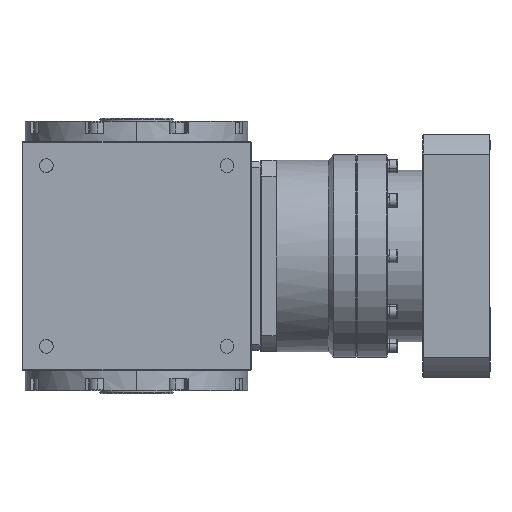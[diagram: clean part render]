
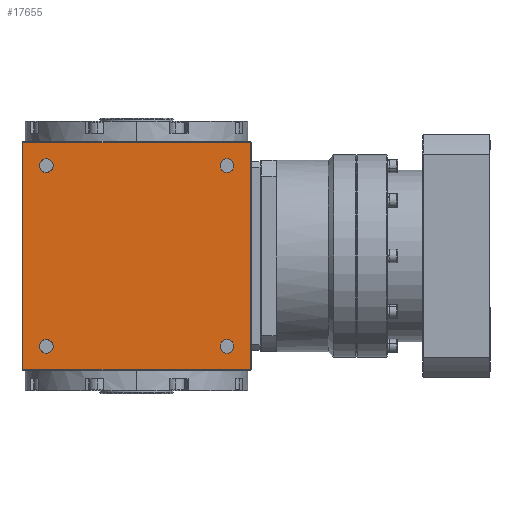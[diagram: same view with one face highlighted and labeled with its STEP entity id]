
A CAD part, left-side view. The second image highlights one B-rep face of the part: STEP entity #17655.
In plain terms, the highlighted planar face has unit normal (-1, 0, 0).
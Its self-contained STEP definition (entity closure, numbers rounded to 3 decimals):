
#273 = VECTOR ( 'NONE', #23337, 1000. ) ;
#275 = ORIENTED_EDGE ( 'NONE', *, *, #9602, .T. ) ;
#744 = CARTESIAN_POINT ( 'NONE',  ( -85., 84.5, 84.5 ) ) ;
#868 = CARTESIAN_POINT ( 'NONE',  ( -85., 85., 84.5 ) ) ;
#1003 = VERTEX_POINT ( 'NONE', #29728 ) ;
#1736 = CARTESIAN_POINT ( 'NONE',  ( -85., 85., -85. ) ) ;
#1900 = LINE ( 'NONE', #14093, #15139 ) ;
#2102 = CARTESIAN_POINT ( 'NONE',  ( -85., 67., 67. ) ) ;
#4072 = DIRECTION ( 'NONE',  ( 0., 0., 1. ) ) ;
#4186 = CARTESIAN_POINT ( 'NONE',  ( -85., -84.5, -84.5 ) ) ;
#4202 = DIRECTION ( 'NONE',  ( 1., 0., 0. ) ) ;
#4684 = FACE_BOUND ( 'NONE', #8637, .T. ) ;
#4778 = DIRECTION ( 'NONE',  ( 0., 1., 0. ) ) ;
#5446 = CIRCLE ( 'NONE', #31803, 5.1 ) ;
#5469 = CARTESIAN_POINT ( 'NONE',  ( -85., 67., 72.1 ) ) ;
#5640 = DIRECTION ( 'NONE',  ( 0., 0., 1. ) ) ;
#5864 = DIRECTION ( 'NONE',  ( 1., 0., 0. ) ) ;
#5929 = EDGE_CURVE ( 'NONE', #9011, #14684, #5446, .T. ) ;
#5964 = VERTEX_POINT ( 'NONE', #4186 ) ;
#6240 = CARTESIAN_POINT ( 'NONE',  ( -85., 67., -67. ) ) ;
#6545 = CARTESIAN_POINT ( 'NONE',  ( -85., 84.5, -84.5 ) ) ;
#6602 = CIRCLE ( 'NONE', #18566, 5.1 ) ;
#6623 = CARTESIAN_POINT ( 'NONE',  ( -85., 67., -72.1 ) ) ;
#6741 = CARTESIAN_POINT ( 'NONE',  ( -85., -67., 67. ) ) ;
#7144 = EDGE_LOOP ( 'NONE', ( #275, #28555 ) ) ;
#7385 = ORIENTED_EDGE ( 'NONE', *, *, #27230, .T. ) ;
#7446 = DIRECTION ( 'NONE',  ( 0., 0., 1. ) ) ;
#7576 = DIRECTION ( 'NONE',  ( 1., 0., 0. ) ) ;
#8637 = EDGE_LOOP ( 'NONE', ( #37972, #37533 ) ) ;
#9011 = VERTEX_POINT ( 'NONE', #19502 ) ;
#9381 = DIRECTION ( 'NONE',  ( 1., 0., 0. ) ) ;
#9602 = EDGE_CURVE ( 'NONE', #16381, #18782, #31817, .T. ) ;
#10286 = EDGE_CURVE ( 'NONE', #5964, #1003, #11330, .T. ) ;
#10754 = CARTESIAN_POINT ( 'NONE',  ( -85., -84.5, -85. ) ) ;
#10926 = EDGE_CURVE ( 'NONE', #18782, #16381, #17965, .T. ) ;
#11080 = VERTEX_POINT ( 'NONE', #5469 ) ;
#11102 = EDGE_CURVE ( 'NONE', #11080, #13547, #6602, .T. ) ;
#11171 = FACE_BOUND ( 'NONE', #20916, .T. ) ;
#11180 = DIRECTION ( 'NONE',  ( 0., 0., 1. ) ) ;
#11330 = LINE ( 'NONE', #10754, #273 ) ;
#13384 = VERTEX_POINT ( 'NONE', #6545 ) ;
#13547 = VERTEX_POINT ( 'NONE', #23255 ) ;
#13911 = DIRECTION ( 'NONE',  ( 0., -1., 0. ) ) ;
#13923 = AXIS2_PLACEMENT_3D ( 'NONE', #2102, #34741, #5640 ) ;
#13959 = DIRECTION ( 'NONE',  ( 1., 0., 0. ) ) ;
#14093 = CARTESIAN_POINT ( 'NONE',  ( -85., 85., -84.5 ) ) ;
#14120 = AXIS2_PLACEMENT_3D ( 'NONE', #1736, #25739, #37738 ) ;
#14684 = VERTEX_POINT ( 'NONE', #30188 ) ;
#14889 = AXIS2_PLACEMENT_3D ( 'NONE', #19594, #7576, #26052 ) ;
#15139 = VECTOR ( 'NONE', #13911, 1000. ) ;
#15824 = VECTOR ( 'NONE', #4778, 1000. ) ;
#15898 = CARTESIAN_POINT ( 'NONE',  ( -85., -67., 67. ) ) ;
#16074 = EDGE_CURVE ( 'NONE', #1003, #22710, #18785, .T. ) ;
#16290 = DIRECTION ( 'NONE',  ( 1., 0., 0. ) ) ;
#16381 = VERTEX_POINT ( 'NONE', #28346 ) ;
#16921 = CARTESIAN_POINT ( 'NONE',  ( -85., -67., -67. ) ) ;
#16938 = ORIENTED_EDGE ( 'NONE', *, *, #16074, .T. ) ;
#17117 = FACE_OUTER_BOUND ( 'NONE', #23869, .T. ) ;
#17655 = ADVANCED_FACE ( 'NONE', ( #17117, #34589, #11171, #19654, #4684 ), #28671, .T. ) ;
#17717 = CARTESIAN_POINT ( 'NONE',  ( -85., 67., 67. ) ) ;
#17965 = CIRCLE ( 'NONE', #36114, 5.1 ) ;
#18566 = AXIS2_PLACEMENT_3D ( 'NONE', #17717, #5864, #11180 ) ;
#18782 = VERTEX_POINT ( 'NONE', #22837 ) ;
#18785 = LINE ( 'NONE', #868, #15824 ) ;
#18979 = CARTESIAN_POINT ( 'NONE',  ( -85., 67., -67. ) ) ;
#19309 = AXIS2_PLACEMENT_3D ( 'NONE', #18979, #4202, #30371 ) ;
#19497 = DIRECTION ( 'NONE',  ( 0., 0., -1. ) ) ;
#19502 = CARTESIAN_POINT ( 'NONE',  ( -85., -67., 72.1 ) ) ;
#19594 = CARTESIAN_POINT ( 'NONE',  ( -85., -67., -67. ) ) ;
#19654 = FACE_BOUND ( 'NONE', #7144, .T. ) ;
#19713 = EDGE_LOOP ( 'NONE', ( #38752, #32789 ) ) ;
#20111 = ORIENTED_EDGE ( 'NONE', *, *, #34940, .T. ) ;
#20916 = EDGE_LOOP ( 'NONE', ( #23274, #27051 ) ) ;
#21400 = DIRECTION ( 'NONE',  ( 0., 0., 1. ) ) ;
#21527 = EDGE_CURVE ( 'NONE', #28278, #22684, #34382, .T. ) ;
#22684 = VERTEX_POINT ( 'NONE', #6623 ) ;
#22710 = VERTEX_POINT ( 'NONE', #744 ) ;
#22837 = CARTESIAN_POINT ( 'NONE',  ( -85., -67., -72.1 ) ) ;
#23255 = CARTESIAN_POINT ( 'NONE',  ( -85., 67., 61.9 ) ) ;
#23274 = ORIENTED_EDGE ( 'NONE', *, *, #21527, .T. ) ;
#23337 = DIRECTION ( 'NONE',  ( 0., 0., 1. ) ) ;
#23869 = EDGE_LOOP ( 'NONE', ( #36335, #16938, #7385, #20111 ) ) ;
#23974 = AXIS2_PLACEMENT_3D ( 'NONE', #15898, #16290, #4072 ) ;
#24638 = CIRCLE ( 'NONE', #23974, 5.1 ) ;
#25194 = CARTESIAN_POINT ( 'NONE',  ( -85., 84.5, -85. ) ) ;
#25739 = DIRECTION ( 'NONE',  ( -1., 0., 0. ) ) ;
#26052 = DIRECTION ( 'NONE',  ( 0., 0., 1. ) ) ;
#27051 = ORIENTED_EDGE ( 'NONE', *, *, #28422, .T. ) ;
#27230 = EDGE_CURVE ( 'NONE', #22710, #13384, #33836, .T. ) ;
#27484 = AXIS2_PLACEMENT_3D ( 'NONE', #6240, #9381, #21400 ) ;
#28278 = VERTEX_POINT ( 'NONE', #32348 ) ;
#28346 = CARTESIAN_POINT ( 'NONE',  ( -85., -67., -61.9 ) ) ;
#28422 = EDGE_CURVE ( 'NONE', #22684, #28278, #38140, .T. ) ;
#28555 = ORIENTED_EDGE ( 'NONE', *, *, #10926, .T. ) ;
#28671 = PLANE ( 'NONE',  #14120 ) ;
#29728 = CARTESIAN_POINT ( 'NONE',  ( -85., -84.5, 84.5 ) ) ;
#30188 = CARTESIAN_POINT ( 'NONE',  ( -85., -67., 61.9 ) ) ;
#30371 = DIRECTION ( 'NONE',  ( 0., 0., 1. ) ) ;
#30748 = DIRECTION ( 'NONE',  ( 1., 0., 0. ) ) ;
#30855 = CIRCLE ( 'NONE', #13923, 5.1 ) ;
#31803 = AXIS2_PLACEMENT_3D ( 'NONE', #6741, #30748, #34075 ) ;
#31817 = CIRCLE ( 'NONE', #14889, 5.1 ) ;
#32348 = CARTESIAN_POINT ( 'NONE',  ( -85., 67., -61.9 ) ) ;
#32789 = ORIENTED_EDGE ( 'NONE', *, *, #36860, .T. ) ;
#33836 = LINE ( 'NONE', #25194, #35591 ) ;
#34075 = DIRECTION ( 'NONE',  ( 0., 0., 1. ) ) ;
#34382 = CIRCLE ( 'NONE', #27484, 5.1 ) ;
#34589 = FACE_BOUND ( 'NONE', #19713, .T. ) ;
#34741 = DIRECTION ( 'NONE',  ( 1., 0., 0. ) ) ;
#34940 = EDGE_CURVE ( 'NONE', #13384, #5964, #1900, .T. ) ;
#35591 = VECTOR ( 'NONE', #19497, 1000. ) ;
#36114 = AXIS2_PLACEMENT_3D ( 'NONE', #16921, #13959, #7446 ) ;
#36335 = ORIENTED_EDGE ( 'NONE', *, *, #10286, .T. ) ;
#36860 = EDGE_CURVE ( 'NONE', #14684, #9011, #24638, .T. ) ;
#36993 = EDGE_CURVE ( 'NONE', #13547, #11080, #30855, .T. ) ;
#37533 = ORIENTED_EDGE ( 'NONE', *, *, #36993, .T. ) ;
#37738 = DIRECTION ( 'NONE',  ( 0., -1., 0. ) ) ;
#37972 = ORIENTED_EDGE ( 'NONE', *, *, #11102, .T. ) ;
#38140 = CIRCLE ( 'NONE', #19309, 5.1 ) ;
#38752 = ORIENTED_EDGE ( 'NONE', *, *, #5929, .T. ) ;
